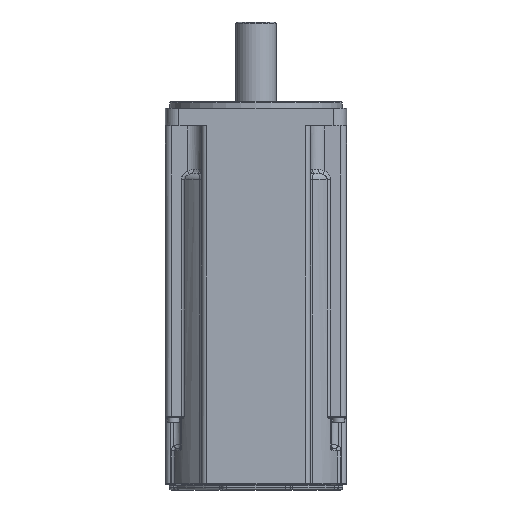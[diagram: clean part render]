
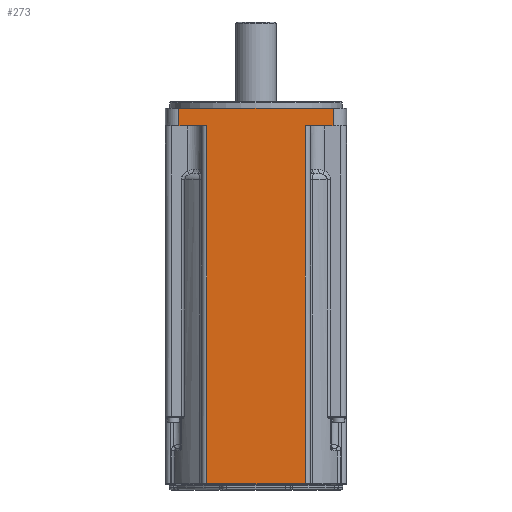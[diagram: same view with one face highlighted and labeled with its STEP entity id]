
A CAD part, front view. The second image highlights one B-rep face of the part: STEP entity #273.
In plain terms, the highlighted planar face has unit normal (0, -1, 0).
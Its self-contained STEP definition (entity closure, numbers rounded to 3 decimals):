
#267 = ORIENTED_EDGE ( 'NONE', *, *, #14213, .T. ) ;
#271 = ORIENTED_EDGE ( 'NONE', *, *, #283, .T. ) ;
#272 = ORIENTED_EDGE ( 'NONE', *, *, #14172, .F. ) ;
#273 = ADVANCED_FACE ( 'NONE', ( #636 ), #676, .T. ) ;
#274 = EDGE_LOOP ( 'NONE', ( #267, #271, #277, #282, #275, #272, #14161, #14170 ) ) ;
#275 = ORIENTED_EDGE ( 'NONE', *, *, #14194, .T. ) ;
#277 = ORIENTED_EDGE ( 'NONE', *, *, #26957, .T. ) ;
#282 = ORIENTED_EDGE ( 'NONE', *, *, #22185, .T. ) ;
#283 = EDGE_CURVE ( 'NONE', #14262, #26958, #670, .T. ) ;
#636 = FACE_OUTER_BOUND ( 'NONE', #274, .T. ) ;
#667 = DIRECTION ( 'NONE',  ( 1., 0., 0. ) ) ;
#668 = VECTOR ( 'NONE', #667, 1000. ) ;
#669 = CARTESIAN_POINT ( 'NONE',  ( 22.752, -42., -174.7 ) ) ;
#670 = LINE ( 'NONE', #669, #668 ) ;
#672 = DIRECTION ( 'NONE',  ( 0., 0., -1. ) ) ;
#673 = DIRECTION ( 'NONE',  ( 0., -1., 0. ) ) ;
#674 = CARTESIAN_POINT ( 'NONE',  ( -42., -42., -8.9 ) ) ;
#675 = AXIS2_PLACEMENT_3D ( 'NONE', #674, #673, #672 ) ;
#676 = PLANE ( 'NONE',  #675 ) ;
#1069 = CARTESIAN_POINT ( 'NONE',  ( -35.686, -42., -0.9 ) ) ;
#1105 = LINE ( 'NONE', #1210, #1208 ) ;
#1144 = DIRECTION ( 'NONE',  ( 0., 0., -1. ) ) ;
#1146 = VECTOR ( 'NONE', #1144, 1000. ) ;
#1148 = CARTESIAN_POINT ( 'NONE',  ( -35.686, -42., -8.9 ) ) ;
#1150 = LINE ( 'NONE', #1148, #1146 ) ;
#1207 = DIRECTION ( 'NONE',  ( 1., 0., 0. ) ) ;
#1208 = VECTOR ( 'NONE', #1207, 1000. ) ;
#1210 = CARTESIAN_POINT ( 'NONE',  ( -42., -42., -0.9 ) ) ;
#1218 = CARTESIAN_POINT ( 'NONE',  ( 35.686, -42., -0.9 ) ) ;
#1225 = CARTESIAN_POINT ( 'NONE',  ( -35.686, -42., -8.9 ) ) ;
#1227 = DIRECTION ( 'NONE',  ( 1., 0., 0. ) ) ;
#1229 = VECTOR ( 'NONE', #1227, 1000. ) ;
#1231 = CARTESIAN_POINT ( 'NONE',  ( -42., -42., -8.9 ) ) ;
#1232 = LINE ( 'NONE', #1231, #1229 ) ;
#1306 = DIRECTION ( 'NONE',  ( 0., 0., 1. ) ) ;
#1307 = VECTOR ( 'NONE', #1306, 1000. ) ;
#1308 = CARTESIAN_POINT ( 'NONE',  ( 35.686, -42., -8.9 ) ) ;
#1309 = LINE ( 'NONE', #1308, #1307 ) ;
#1320 = CARTESIAN_POINT ( 'NONE',  ( -22.752, -42., -8.9 ) ) ;
#1322 = DIRECTION ( 'NONE',  ( 0., 0., -1. ) ) ;
#1324 = VECTOR ( 'NONE', #1322, 1000. ) ;
#1339 = CARTESIAN_POINT ( 'NONE',  ( -22.752, -42., -175.2 ) ) ;
#1340 = LINE ( 'NONE', #1339, #1324 ) ;
#1750 = CARTESIAN_POINT ( 'NONE',  ( -22.752, -42., -174.7 ) ) ;
#8969 = CARTESIAN_POINT ( 'NONE',  ( 35.686, -42., -8.9 ) ) ;
#8970 = DIRECTION ( 'NONE',  ( 1., 0., 0. ) ) ;
#8971 = VECTOR ( 'NONE', #8970, 1000. ) ;
#8973 = CARTESIAN_POINT ( 'NONE',  ( -42., -42., -8.9 ) ) ;
#8974 = LINE ( 'NONE', #8973, #8971 ) ;
#14161 = ORIENTED_EDGE ( 'NONE', *, *, #14166, .T. ) ;
#14163 = VERTEX_POINT ( 'NONE', #1069 ) ;
#14166 = EDGE_CURVE ( 'NONE', #14163, #14189, #1150, .T. ) ;
#14170 = ORIENTED_EDGE ( 'NONE', *, *, #14187, .T. ) ;
#14172 = EDGE_CURVE ( 'NONE', #14163, #14193, #1105, .T. ) ;
#14187 = EDGE_CURVE ( 'NONE', #14189, #14214, #1232, .T. ) ;
#14189 = VERTEX_POINT ( 'NONE', #1225 ) ;
#14193 = VERTEX_POINT ( 'NONE', #1218 ) ;
#14194 = EDGE_CURVE ( 'NONE', #22842, #14193, #1309, .T. ) ;
#14213 = EDGE_CURVE ( 'NONE', #14214, #14262, #1340, .T. ) ;
#14214 = VERTEX_POINT ( 'NONE', #1320 ) ;
#14262 = VERTEX_POINT ( 'NONE', #1750 ) ;
#22185 = EDGE_CURVE ( 'NONE', #26959, #22842, #8974, .T. ) ;
#22842 = VERTEX_POINT ( 'NONE', #8969 ) ;
#24783 = CARTESIAN_POINT ( 'NONE',  ( 22.752, -42., -8.9 ) ) ;
#24784 = CARTESIAN_POINT ( 'NONE',  ( 22.752, -42., -174.7 ) ) ;
#24786 = DIRECTION ( 'NONE',  ( 0., 0., 1. ) ) ;
#24788 = VECTOR ( 'NONE', #24786, 1000. ) ;
#24790 = CARTESIAN_POINT ( 'NONE',  ( 22.752, -42., -8.9 ) ) ;
#24792 = LINE ( 'NONE', #24790, #24788 ) ;
#26957 = EDGE_CURVE ( 'NONE', #26958, #26959, #24792, .T. ) ;
#26958 = VERTEX_POINT ( 'NONE', #24784 ) ;
#26959 = VERTEX_POINT ( 'NONE', #24783 ) ;
